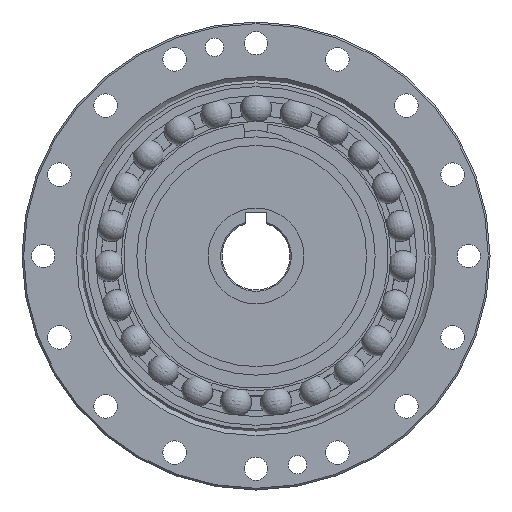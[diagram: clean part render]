
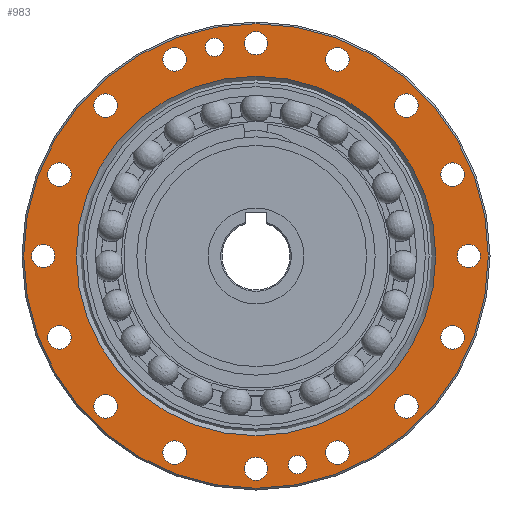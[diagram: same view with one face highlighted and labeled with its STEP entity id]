
A CAD part, left-side view. The second image highlights one B-rep face of the part: STEP entity #983.
In plain terms, the highlighted planar face has unit normal (-1, 0, 0).
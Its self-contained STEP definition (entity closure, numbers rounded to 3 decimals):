
#818=PLANE('',#4128);
#983=ADVANCED_FACE('',(#1260,#1261,#1262,#1263,#1264,#1265,#1266,#1267,
#1268,#1269,#1270,#1271,#1272,#1273,#1274,#1275,#1276,#1277,#1278,#1279),
#818,.F.);
#1260=FACE_BOUND('',#1615,.T.);
#1261=FACE_BOUND('',#1616,.T.);
#1262=FACE_BOUND('',#1617,.T.);
#1263=FACE_BOUND('',#1618,.T.);
#1264=FACE_BOUND('',#1619,.T.);
#1265=FACE_BOUND('',#1620,.T.);
#1266=FACE_BOUND('',#1621,.T.);
#1267=FACE_BOUND('',#1622,.T.);
#1268=FACE_BOUND('',#1623,.T.);
#1269=FACE_BOUND('',#1624,.T.);
#1270=FACE_BOUND('',#1625,.T.);
#1271=FACE_BOUND('',#1626,.T.);
#1272=FACE_BOUND('',#1627,.T.);
#1273=FACE_BOUND('',#1628,.T.);
#1274=FACE_BOUND('',#1629,.T.);
#1275=FACE_BOUND('',#1630,.T.);
#1276=FACE_BOUND('',#1631,.T.);
#1277=FACE_BOUND('',#1632,.T.);
#1278=FACE_BOUND('',#1633,.T.);
#1279=FACE_BOUND('',#1634,.T.);
#1615=EDGE_LOOP('',(#2474));
#1616=EDGE_LOOP('',(#2475));
#1617=EDGE_LOOP('',(#2476));
#1618=EDGE_LOOP('',(#2477));
#1619=EDGE_LOOP('',(#2478));
#1620=EDGE_LOOP('',(#2479));
#1621=EDGE_LOOP('',(#2480));
#1622=EDGE_LOOP('',(#2481));
#1623=EDGE_LOOP('',(#2482));
#1624=EDGE_LOOP('',(#2483));
#1625=EDGE_LOOP('',(#2484));
#1626=EDGE_LOOP('',(#2485));
#1627=EDGE_LOOP('',(#2486));
#1628=EDGE_LOOP('',(#2487));
#1629=EDGE_LOOP('',(#2488));
#1630=EDGE_LOOP('',(#2489));
#1631=EDGE_LOOP('',(#2490));
#1632=EDGE_LOOP('',(#2491));
#1633=EDGE_LOOP('',(#2492));
#1634=EDGE_LOOP('',(#2493));
#2474=ORIENTED_EDGE('',*,*,#3388,.T.);
#2475=ORIENTED_EDGE('',*,*,#3389,.T.);
#2476=ORIENTED_EDGE('',*,*,#3390,.T.);
#2477=ORIENTED_EDGE('',*,*,#3391,.T.);
#2478=ORIENTED_EDGE('',*,*,#3392,.T.);
#2479=ORIENTED_EDGE('',*,*,#3393,.T.);
#2480=ORIENTED_EDGE('',*,*,#3394,.T.);
#2481=ORIENTED_EDGE('',*,*,#3395,.T.);
#2482=ORIENTED_EDGE('',*,*,#3396,.T.);
#2483=ORIENTED_EDGE('',*,*,#3397,.T.);
#2484=ORIENTED_EDGE('',*,*,#3398,.T.);
#2485=ORIENTED_EDGE('',*,*,#3399,.T.);
#2486=ORIENTED_EDGE('',*,*,#3400,.T.);
#2487=ORIENTED_EDGE('',*,*,#3401,.T.);
#2488=ORIENTED_EDGE('',*,*,#3402,.T.);
#2489=ORIENTED_EDGE('',*,*,#3403,.T.);
#2490=ORIENTED_EDGE('',*,*,#3404,.T.);
#2491=ORIENTED_EDGE('',*,*,#3405,.T.);
#2492=ORIENTED_EDGE('',*,*,#3406,.T.);
#2493=ORIENTED_EDGE('',*,*,#3407,.T.);
#2922=VERTEX_POINT('',#8294);
#2923=VERTEX_POINT('',#8296);
#2924=VERTEX_POINT('',#8298);
#2925=VERTEX_POINT('',#8300);
#2926=VERTEX_POINT('',#8302);
#2927=VERTEX_POINT('',#8304);
#2928=VERTEX_POINT('',#8306);
#2929=VERTEX_POINT('',#8308);
#2930=VERTEX_POINT('',#8310);
#2931=VERTEX_POINT('',#8312);
#2932=VERTEX_POINT('',#8314);
#2933=VERTEX_POINT('',#8316);
#2934=VERTEX_POINT('',#8318);
#2935=VERTEX_POINT('',#8320);
#2936=VERTEX_POINT('',#8322);
#2937=VERTEX_POINT('',#8324);
#2938=VERTEX_POINT('',#8326);
#2939=VERTEX_POINT('',#8328);
#2940=VERTEX_POINT('',#8330);
#2941=VERTEX_POINT('',#8332);
#3388=EDGE_CURVE('',#2922,#2922,#3659,.T.);
#3389=EDGE_CURVE('',#2923,#2923,#3660,.T.);
#3390=EDGE_CURVE('',#2924,#2924,#3661,.T.);
#3391=EDGE_CURVE('',#2925,#2925,#3662,.T.);
#3392=EDGE_CURVE('',#2926,#2926,#3663,.T.);
#3393=EDGE_CURVE('',#2927,#2927,#3664,.T.);
#3394=EDGE_CURVE('',#2928,#2928,#3665,.T.);
#3395=EDGE_CURVE('',#2929,#2929,#3666,.T.);
#3396=EDGE_CURVE('',#2930,#2930,#3667,.T.);
#3397=EDGE_CURVE('',#2931,#2931,#3668,.T.);
#3398=EDGE_CURVE('',#2932,#2932,#3669,.T.);
#3399=EDGE_CURVE('',#2933,#2933,#3670,.T.);
#3400=EDGE_CURVE('',#2934,#2934,#3671,.T.);
#3401=EDGE_CURVE('',#2935,#2935,#3672,.T.);
#3402=EDGE_CURVE('',#2936,#2936,#3673,.T.);
#3403=EDGE_CURVE('',#2937,#2937,#3674,.T.);
#3404=EDGE_CURVE('',#2938,#2938,#3675,.T.);
#3405=EDGE_CURVE('',#2939,#2939,#3676,.T.);
#3406=EDGE_CURVE('',#2940,#2940,#3677,.T.);
#3407=EDGE_CURVE('',#2941,#2941,#3678,.T.);
#3659=CIRCLE('',#4108,42.25);
#3660=CIRCLE('',#4109,54.6);
#3661=CIRCLE('',#4110,2.15);
#3662=CIRCLE('',#4111,2.15);
#3663=CIRCLE('',#4112,2.75);
#3664=CIRCLE('',#4113,2.75);
#3665=CIRCLE('',#4114,2.75);
#3666=CIRCLE('',#4115,2.75);
#3667=CIRCLE('',#4116,2.75);
#3668=CIRCLE('',#4117,2.75);
#3669=CIRCLE('',#4118,2.75);
#3670=CIRCLE('',#4119,2.75);
#3671=CIRCLE('',#4120,2.75);
#3672=CIRCLE('',#4121,2.75);
#3673=CIRCLE('',#4122,2.75);
#3674=CIRCLE('',#4123,2.75);
#3675=CIRCLE('',#4124,2.75);
#3676=CIRCLE('',#4125,2.75);
#3677=CIRCLE('',#4126,2.75);
#3678=CIRCLE('',#4127,2.75);
#4108=AXIS2_PLACEMENT_3D('',#8293,#4911,#4912);
#4109=AXIS2_PLACEMENT_3D('',#8295,#4913,#4914);
#4110=AXIS2_PLACEMENT_3D('',#8297,#4915,#4916);
#4111=AXIS2_PLACEMENT_3D('',#8299,#4917,#4918);
#4112=AXIS2_PLACEMENT_3D('',#8301,#4919,#4920);
#4113=AXIS2_PLACEMENT_3D('',#8303,#4921,#4922);
#4114=AXIS2_PLACEMENT_3D('',#8305,#4923,#4924);
#4115=AXIS2_PLACEMENT_3D('',#8307,#4925,#4926);
#4116=AXIS2_PLACEMENT_3D('',#8309,#4927,#4928);
#4117=AXIS2_PLACEMENT_3D('',#8311,#4929,#4930);
#4118=AXIS2_PLACEMENT_3D('',#8313,#4931,#4932);
#4119=AXIS2_PLACEMENT_3D('',#8315,#4933,#4934);
#4120=AXIS2_PLACEMENT_3D('',#8317,#4935,#4936);
#4121=AXIS2_PLACEMENT_3D('',#8319,#4937,#4938);
#4122=AXIS2_PLACEMENT_3D('',#8321,#4939,#4940);
#4123=AXIS2_PLACEMENT_3D('',#8323,#4941,#4942);
#4124=AXIS2_PLACEMENT_3D('',#8325,#4943,#4944);
#4125=AXIS2_PLACEMENT_3D('',#8327,#4945,#4946);
#4126=AXIS2_PLACEMENT_3D('',#8329,#4947,#4948);
#4127=AXIS2_PLACEMENT_3D('',#8331,#4949,#4950);
#4128=AXIS2_PLACEMENT_3D('',#8333,#4951,#4952);
#4911=DIRECTION('',(1.,0.,0.));
#4912=DIRECTION('',(0.,0.,-1.));
#4913=DIRECTION('',(-1.,0.,0.));
#4914=DIRECTION('',(0.,0.,-1.));
#4915=DIRECTION('',(1.,0.,0.));
#4916=DIRECTION('',(0.,0.,-1.));
#4917=DIRECTION('',(1.,0.,0.));
#4918=DIRECTION('',(0.,0.,-1.));
#4919=DIRECTION('',(1.,0.,0.));
#4920=DIRECTION('',(0.,0.,-1.));
#4921=DIRECTION('',(1.,0.,0.));
#4922=DIRECTION('',(0.,0.,-1.));
#4923=DIRECTION('',(1.,0.,0.));
#4924=DIRECTION('',(0.,0.,-1.));
#4925=DIRECTION('',(1.,0.,0.));
#4926=DIRECTION('',(0.,0.,-1.));
#4927=DIRECTION('',(1.,0.,0.));
#4928=DIRECTION('',(0.,0.,-1.));
#4929=DIRECTION('',(1.,0.,0.));
#4930=DIRECTION('',(0.,0.,-1.));
#4931=DIRECTION('',(1.,0.,0.));
#4932=DIRECTION('',(0.,0.,-1.));
#4933=DIRECTION('',(1.,0.,0.));
#4934=DIRECTION('',(0.,0.,-1.));
#4935=DIRECTION('',(1.,0.,0.));
#4936=DIRECTION('',(0.,0.,-1.));
#4937=DIRECTION('',(1.,0.,0.));
#4938=DIRECTION('',(0.,0.,-1.));
#4939=DIRECTION('',(1.,0.,0.));
#4940=DIRECTION('',(0.,0.,-1.));
#4941=DIRECTION('',(1.,0.,0.));
#4942=DIRECTION('',(0.,0.,-1.));
#4943=DIRECTION('',(1.,0.,0.));
#4944=DIRECTION('',(0.,0.,-1.));
#4945=DIRECTION('',(1.,0.,0.));
#4946=DIRECTION('',(0.,0.,-1.));
#4947=DIRECTION('',(1.,0.,0.));
#4948=DIRECTION('',(0.,0.,-1.));
#4949=DIRECTION('',(1.,0.,0.));
#4950=DIRECTION('',(0.,0.,-1.));
#4951=DIRECTION('',(1.,0.,0.));
#4952=DIRECTION('',(0.,0.,-1.));
#8293=CARTESIAN_POINT('',(0.,0.,0.));
#8294=CARTESIAN_POINT('',(0.,0.,-42.25));
#8295=CARTESIAN_POINT('',(0.,0.,0.));
#8296=CARTESIAN_POINT('',(0.,0.,-54.6));
#8297=CARTESIAN_POINT('',(0.,-9.755,-49.039));
#8298=CARTESIAN_POINT('',(0.,-9.755,-51.189));
#8299=CARTESIAN_POINT('',(0.,9.755,49.039));
#8300=CARTESIAN_POINT('',(0.,9.755,46.889));
#8301=CARTESIAN_POINT('',(0.,-35.355,35.355));
#8302=CARTESIAN_POINT('',(0.,-35.355,32.605));
#8303=CARTESIAN_POINT('',(0.,-19.134,46.194));
#8304=CARTESIAN_POINT('',(0.,-19.134,43.444));
#8305=CARTESIAN_POINT('',(0.,0.,50.));
#8306=CARTESIAN_POINT('',(0.,0.,47.25));
#8307=CARTESIAN_POINT('',(0.,19.134,46.194));
#8308=CARTESIAN_POINT('',(0.,19.134,43.444));
#8309=CARTESIAN_POINT('',(0.,35.355,35.355));
#8310=CARTESIAN_POINT('',(0.,35.355,32.605));
#8311=CARTESIAN_POINT('',(0.,46.194,19.134));
#8312=CARTESIAN_POINT('',(0.,46.194,16.384));
#8313=CARTESIAN_POINT('',(0.,50.,0.));
#8314=CARTESIAN_POINT('',(0.,50.,-2.75));
#8315=CARTESIAN_POINT('',(0.,46.194,-19.134));
#8316=CARTESIAN_POINT('',(0.,46.194,-21.884));
#8317=CARTESIAN_POINT('',(0.,35.355,-35.355));
#8318=CARTESIAN_POINT('',(0.,35.355,-38.105));
#8319=CARTESIAN_POINT('',(0.,19.134,-46.194));
#8320=CARTESIAN_POINT('',(0.,19.134,-48.944));
#8321=CARTESIAN_POINT('',(0.,0.,-50.));
#8322=CARTESIAN_POINT('',(0.,0.,-52.75));
#8323=CARTESIAN_POINT('',(0.,-19.134,-46.194));
#8324=CARTESIAN_POINT('',(0.,-19.134,-48.944));
#8325=CARTESIAN_POINT('',(0.,-35.355,-35.355));
#8326=CARTESIAN_POINT('',(0.,-35.355,-38.105));
#8327=CARTESIAN_POINT('',(0.,-46.194,-19.134));
#8328=CARTESIAN_POINT('',(0.,-46.194,-21.884));
#8329=CARTESIAN_POINT('',(0.,-50.,0.));
#8330=CARTESIAN_POINT('',(0.,-50.,-2.75));
#8331=CARTESIAN_POINT('',(0.,-46.194,19.134));
#8332=CARTESIAN_POINT('',(0.,-46.194,16.384));
#8333=CARTESIAN_POINT('',(0.,0.,55.));
